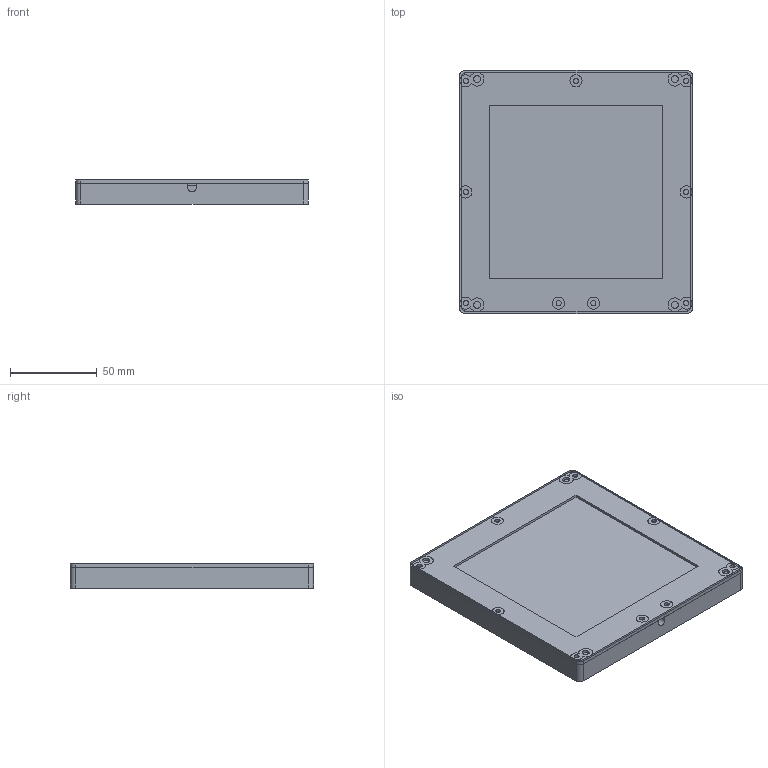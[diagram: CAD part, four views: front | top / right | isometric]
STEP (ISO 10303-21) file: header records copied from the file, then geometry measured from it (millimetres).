
FILE_DESCRIPTION (( 'STEP AP214' ), '1' );
FILE_NAME ('3DEE_STD_100X100SLIFC_IND_G.STEP', '2019-11-08T10:09:19', ( '' ), ( '' ), 'SwSTEP 2.0', 'SolidWorks 2012', '' );
FILE_SCHEMA (( 'AUTOMOTIVE_DESIGN' ));
Length unit declared in the file: millimetre
Products named in the file (1): 3DEE_STD_100X100SLIFC_IND_G
Bounding box: 134 x 140 x 14 mm (x, y, z)
Surface area: 76341.5 mm2 (no closed solid volume)
Topology: 0 solids, 3 shells, 106 faces, 388 edges, 274 vertices
Faces by surface type: cylinder 57, plane 31, cone 18
Entity records: 5467 total; most frequent: CARTESIAN_POINT 839, DIRECTION 772, ORIENTED_EDGE 626, EDGE_CURVE 388, AXIS2_PLACEMENT_3D 291, VERTEX_POINT 274, LINE 190, VECTOR 190
